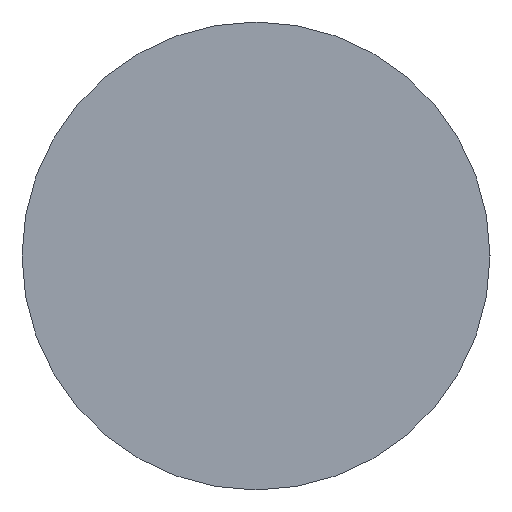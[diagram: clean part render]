
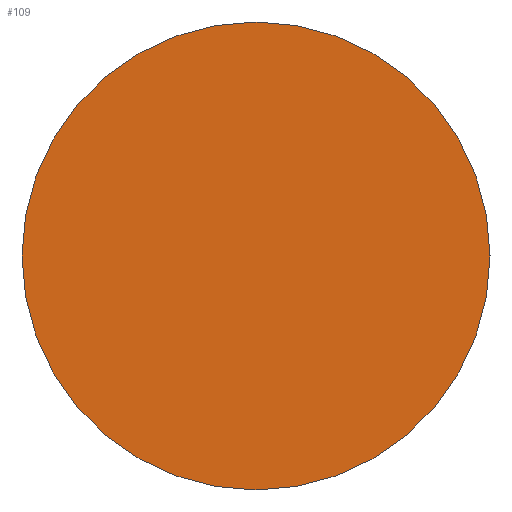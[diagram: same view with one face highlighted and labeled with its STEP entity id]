
A CAD part, left-side view. The second image highlights one B-rep face of the part: STEP entity #109.
In plain terms, the highlighted planar face has unit normal (-1, 0, 0).
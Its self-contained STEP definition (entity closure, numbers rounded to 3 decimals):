
#31 = CYLINDRICAL_SURFACE('',#32,4.);
#32 = AXIS2_PLACEMENT_3D('',#33,#34,#35);
#33 = CARTESIAN_POINT('',(-20.,0.,0.));
#34 = DIRECTION('',(1.,0.,0.));
#35 = DIRECTION('',(-0.,0.,1.));
#56 = VERTEX_POINT('',#57);
#57 = CARTESIAN_POINT('',(-20.,0.,4.));
#78 = EDGE_CURVE('',#56,#56,#79,.T.);
#79 = SURFACE_CURVE('',#80,(#85,#92),.PCURVE_S1.);
#80 = CIRCLE('',#81,4.);
#81 = AXIS2_PLACEMENT_3D('',#82,#83,#84);
#82 = CARTESIAN_POINT('',(-20.,0.,0.));
#83 = DIRECTION('',(1.,0.,0.));
#84 = DIRECTION('',(-0.,0.,1.));
#85 = PCURVE('',#31,#86);
#86 = DEFINITIONAL_REPRESENTATION('',(#87),#91);
#87 = LINE('',#88,#89);
#88 = CARTESIAN_POINT('',(0.,0.));
#89 = VECTOR('',#90,1.);
#90 = DIRECTION('',(1.,0.));
#91 = ( GEOMETRIC_REPRESENTATION_CONTEXT(2) 
PARAMETRIC_REPRESENTATION_CONTEXT() REPRESENTATION_CONTEXT('2D SPACE',''
  ) );
#92 = PCURVE('',#93,#98);
#93 = PLANE('',#94);
#94 = AXIS2_PLACEMENT_3D('',#95,#96,#97);
#95 = CARTESIAN_POINT('',(-20.,0.,0.));
#96 = DIRECTION('',(1.,0.,0.));
#97 = DIRECTION('',(-0.,0.,1.));
#98 = DEFINITIONAL_REPRESENTATION('',(#99),#103);
#99 = CIRCLE('',#100,4.);
#100 = AXIS2_PLACEMENT_2D('',#101,#102);
#101 = CARTESIAN_POINT('',(0.,0.));
#102 = DIRECTION('',(1.,0.));
#103 = ( GEOMETRIC_REPRESENTATION_CONTEXT(2) 
PARAMETRIC_REPRESENTATION_CONTEXT() REPRESENTATION_CONTEXT('2D SPACE',''
  ) );
#109 = ADVANCED_FACE('',(#110),#93,.F.);
#110 = FACE_BOUND('',#111,.T.);
#111 = EDGE_LOOP('',(#112));
#112 = ORIENTED_EDGE('',*,*,#78,.F.);
